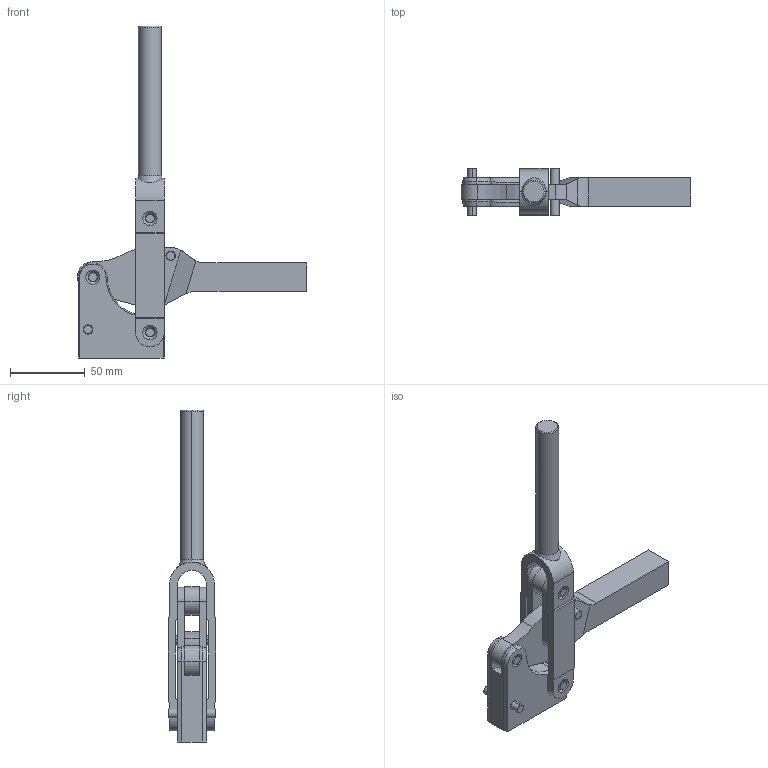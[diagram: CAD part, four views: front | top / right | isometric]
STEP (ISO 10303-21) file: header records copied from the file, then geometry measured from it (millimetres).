
FILE_DESCRIPTION( ( '' ), '1' );
FILE_NAME( 'C:\Documents and Settings\Richard Grenzke\My Documents\Wolverine Company Data\WOLVERINE CD 5_17_05\SOLIDS STEP\hold_down\cq910.stp', ' ', ( '' ), ( '' ), 'ACIS Interop R16', 'Kubotek KeyCreator V5.5.1 (0454)', ' ' );
FILE_SCHEMA( ( 'CONFIG_CONTROL_DESIGN' ) );
Length unit declared in the file: inch
Products named in the file (12): 1; 2; 3; 4; 5; 6; 7; 8; 9; 10; 11; 12
Bounding box: 153.29 x 31.75 x 221.78 mm (x, y, z)
Volume: 144792.6 mm3; surface area: 48959.2 mm2
Topology: 11 solids, 11 shells, 180 faces, 478 edges, 320 vertices
Faces by surface type: cylinder 76, plane 72, cone 30, torus 2
Entity records: 6359 total; most frequent: DIRECTION 1084, CARTESIAN_POINT 1069, ORIENTED_EDGE 956, EDGE_CURVE 478, AXIS2_PLACEMENT_3D 421, VERTEX_POINT 320, LINE 242, VECTOR 242
